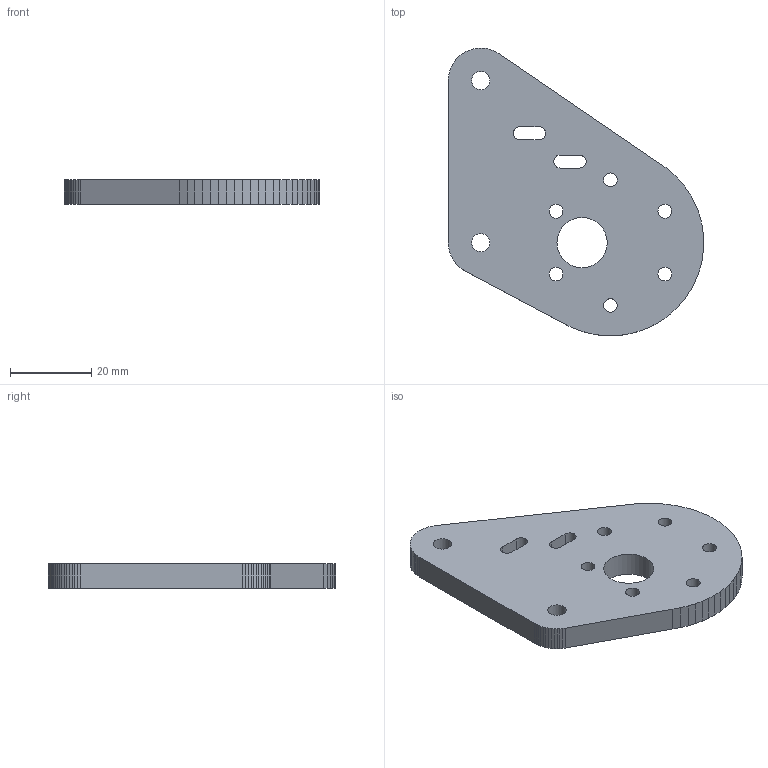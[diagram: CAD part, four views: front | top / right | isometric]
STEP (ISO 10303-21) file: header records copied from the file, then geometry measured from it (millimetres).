
FILE_DESCRIPTION(('Open CASCADE Model'),'2;1');
FILE_NAME('Open CASCADE Shape Model','2026-10-14T15:05:47',('Author'),( 'Open CASCADE'),'Open CASCADE STEP processor 7.8','Open CASCADE 7.8' ,'Unknown');
FILE_SCHEMA(('AUTOMOTIVE_DESIGN { 1 0 10303 214 1 1 1 1 }'));
Length unit declared in the file: millimetre
Products named in the file (1): Open CASCADE STEP translator 7.8 6
Bounding box: 63 x 71 x 6 mm (x, y, z)
Volume: 16845.9 mm3; surface area: 7916.7 mm2
Topology: 1 solids, 1 shells, 94 faces, 276 edges, 184 vertices
Faces by surface type: plane 81, cylinder 13
Full cylindrical faces by diameter (mm): 3.4 x6, 4.5 x2, 12.4 x1
Entity records: 6790 total; most frequent: CARTESIAN_POINT 1279, DIRECTION 1002, LINE 760, VECTOR 760, ORIENTED_EDGE 552, PCURVE 552, DEFINITIONAL_REPRESENTATION 552, EDGE_CURVE 276
